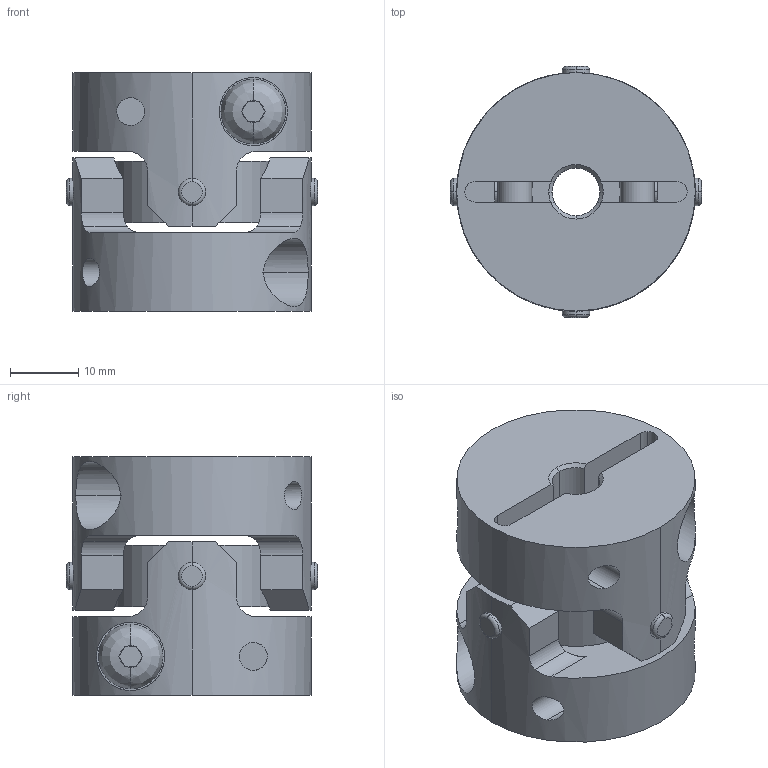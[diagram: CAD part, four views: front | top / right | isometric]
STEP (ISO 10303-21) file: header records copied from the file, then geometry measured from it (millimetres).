
FILE_DESCRIPTION((''),'2;1');
FILE_NAME('UA-35C-7×7.stp','2013-11-12T15:43:24',(''),(''),'AutoCAD STEP 2000i','AutoCAD 2000i',', , ');
FILE_SCHEMA(('CONFIG_CONTROL_DESIGN'));
Length unit declared in the file: millimetre
Products named in the file (6): UA-35C-8×8; 忣兜1; UA-3502-D08-1; BTN-M5; UA-3502-D08; UA35-SEN
Assembly tree (6 placements, depth 3):
  UA-35C-8×8
    忣兜1
    UA-3502-D08-1
      BTN-M5
    UA-3502-D08
      BTN-M5
    UA35-SEN
Bounding box: 36.83 x 36.83 x 35 mm (x, y, z)
Volume: 23555.3 mm3; surface area: 12065.1 mm2
Topology: 1 solids, 1 shells, 250 faces, 646 edges, 408 vertices
Faces by surface type: plane 122, cylinder 96, cone 16, bspline 8, torus 8
Entity records: 9647 total; most frequent: CARTESIAN_POINT 3391, ORIENTED_EDGE 1292, DIRECTION 1288, EDGE_CURVE 646, AXIS2_PLACEMENT_3D 497, VERTEX_POINT 408, VECTOR 294, LINE 294
